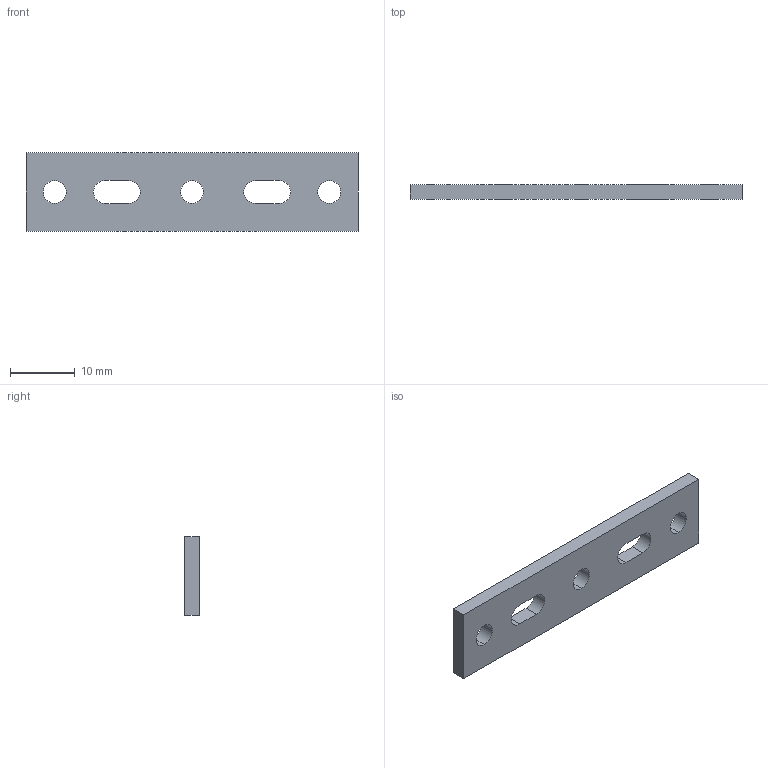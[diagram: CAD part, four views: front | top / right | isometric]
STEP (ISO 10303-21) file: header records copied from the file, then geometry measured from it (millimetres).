
FILE_DESCRIPTION (( 'STEP AP203' ), '1' );
FILE_NAME ('585072.STEP', '2017-09-25T16:35:05', ( '' ), ( '' ), 'SwSTEP 2.0', 'SolidWorks 2016', '' );
FILE_SCHEMA (( 'CONFIG_CONTROL_DESIGN' ));
Length unit declared in the file: inch
Products named in the file (1): 585072
Bounding box: 51.31 x 2.29 x 12.06 mm (x, y, z)
Volume: 1241.6 mm3; surface area: 1537.4 mm2
Topology: 1 solids, 1 shells, 20 faces, 54 edges, 36 vertices
Faces by surface type: cylinder 10, plane 10
Entity records: 737 total; most frequent: DIRECTION 116, CARTESIAN_POINT 111, ORIENTED_EDGE 108, EDGE_CURVE 54, AXIS2_PLACEMENT_3D 41, VERTEX_POINT 36, VECTOR 34, LINE 34
